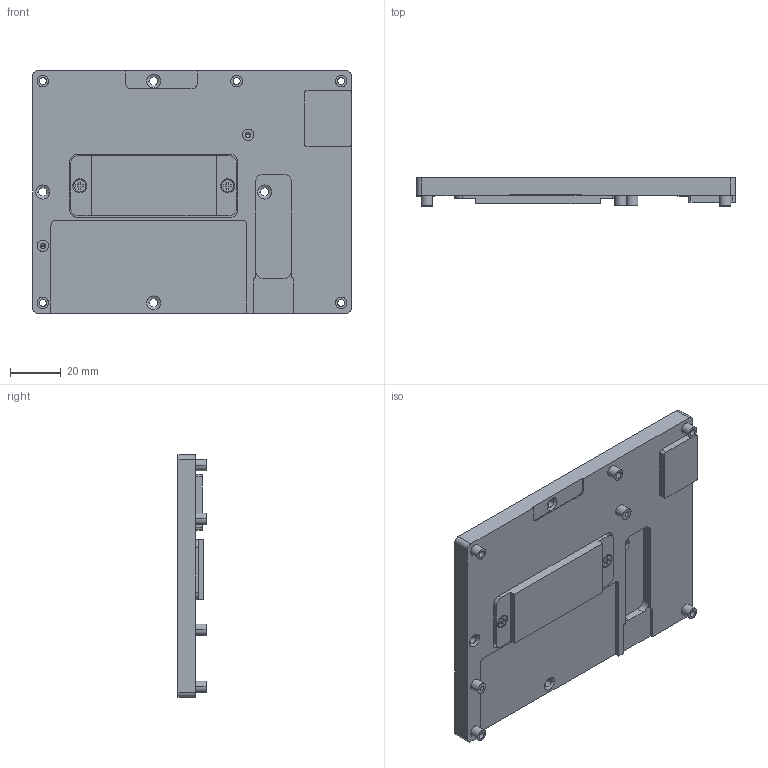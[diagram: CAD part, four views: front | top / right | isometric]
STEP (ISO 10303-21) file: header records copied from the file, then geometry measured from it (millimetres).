
FILE_DESCRIPTION((''),'2;1');
FILE_NAME('00-ESM-RPL_ASM','2024-04-24T13:21:39',('gino_hsu'),(''),'CREO PARAMETRIC BY PTC INC, 2023294','CREO PARAMETRIC BY PTC INC, 2023294','');
FILE_SCHEMA(('CONFIG_CONTROL_DESIGN'));
Length unit declared in the file: millimetre
Products named in the file (5): ESM-RPL-HEATSPERDER-01; ESM-RPL_HEATSPREADER-CU; E1931010401R; E19612X1450003R_ASM; 00-ESM-RPL_ASM
Assembly tree (5 placements, depth 3):
  00-ESM-RPL_ASM
    E19612X1450003R_ASM
      ESM-RPL-HEATSPERDER-01
      ESM-RPL_HEATSPREADER-CU
      E1931010401R  x2
Bounding box: 125 x 11 x 95 mm (x, y, z)
Volume: 79132.8 mm3; surface area: 33726.9 mm2
Topology: 4 solids, 4 shells, 246 faces, 622 edges, 392 vertices
Faces by surface type: cylinder 114, plane 82, cone 40, bspline 10
Entity records: 8160 total; most frequent: CARTESIAN_POINT 2990, DIRECTION 1097, ORIENTED_EDGE 1024, EDGE_CURVE 512, AXIS2_PLACEMENT_3D 405, VERTEX_POINT 324, VECTOR 287, LINE 287
